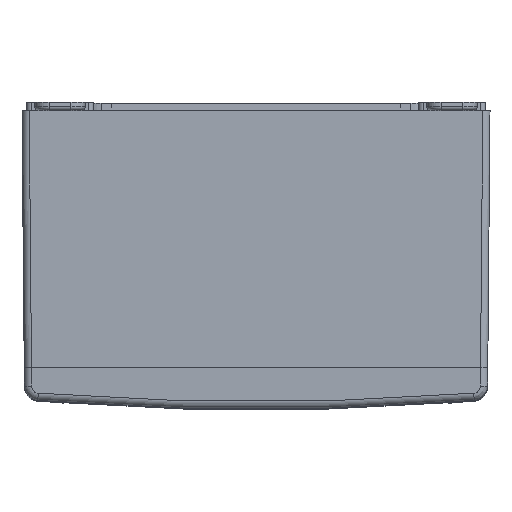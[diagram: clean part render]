
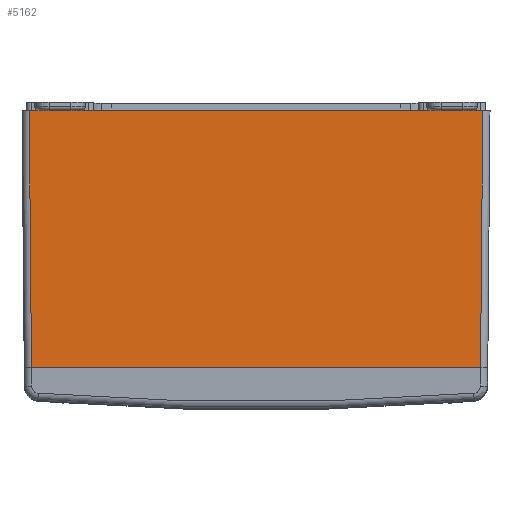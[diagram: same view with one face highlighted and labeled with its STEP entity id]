
A CAD part, top view. The second image highlights one B-rep face of the part: STEP entity #5162.
In plain terms, the highlighted planar face has unit normal (0, -0.009, 1).
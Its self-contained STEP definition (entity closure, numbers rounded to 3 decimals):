
#210=LINE('',#13775,#928);
#268=LINE('',#14070,#986);
#269=LINE('',#14072,#987);
#270=LINE('',#14074,#988);
#928=VECTOR('',#10955,1.);
#986=VECTOR('',#11143,1.);
#987=VECTOR('',#11144,1.);
#988=VECTOR('',#11145,1.);
#4973=PLANE('',#10185);
#5162=ADVANCED_FACE('',(#5487),#4973,.F.);
#5487=FACE_OUTER_BOUND('',#5786,.T.);
#5786=EDGE_LOOP('',(#6388,#6389,#6390,#6391));
#6388=ORIENTED_EDGE('',*,*,#8949,.T.);
#6389=ORIENTED_EDGE('',*,*,#8950,.T.);
#6390=ORIENTED_EDGE('',*,*,#8951,.F.);
#6391=ORIENTED_EDGE('',*,*,#8842,.F.);
#7812=VERTEX_POINT('',#13774);
#7813=VERTEX_POINT('',#13776);
#7909=VERTEX_POINT('',#14071);
#7910=VERTEX_POINT('',#14073);
#8842=EDGE_CURVE('',#7812,#7813,#210,.T.);
#8949=EDGE_CURVE('',#7812,#7909,#268,.T.);
#8950=EDGE_CURVE('',#7909,#7910,#269,.T.);
#8951=EDGE_CURVE('',#7813,#7910,#270,.T.);
#10185=AXIS2_PLACEMENT_3D('',#14075,#11146,#11147);
#10955=DIRECTION('',(-0.009,-1.,-0.009));
#11143=DIRECTION('',(-1.,0.,0.));
#11144=DIRECTION('',(0.009,-1.,-0.009));
#11145=DIRECTION('',(-1.,0.,0.));
#11146=DIRECTION('',(0.,0.009,-1.));
#11147=DIRECTION('',(0.,1.,0.009));
#13774=CARTESIAN_POINT('',(156.75,116.725,267.975));
#13775=CARTESIAN_POINT('',(155.976,27.975,267.201));
#13776=CARTESIAN_POINT('',(155.201,-60.775,266.426));
#14070=CARTESIAN_POINT('',(-156.75,116.725,267.975));
#14071=CARTESIAN_POINT('',(-156.75,116.725,267.975));
#14072=CARTESIAN_POINT('',(-155.976,27.975,267.201));
#14073=CARTESIAN_POINT('',(-155.201,-60.775,266.426));
#14074=CARTESIAN_POINT('',(157.201,-60.775,266.426));
#14075=CARTESIAN_POINT('',(-156.75,-60.775,266.426));
